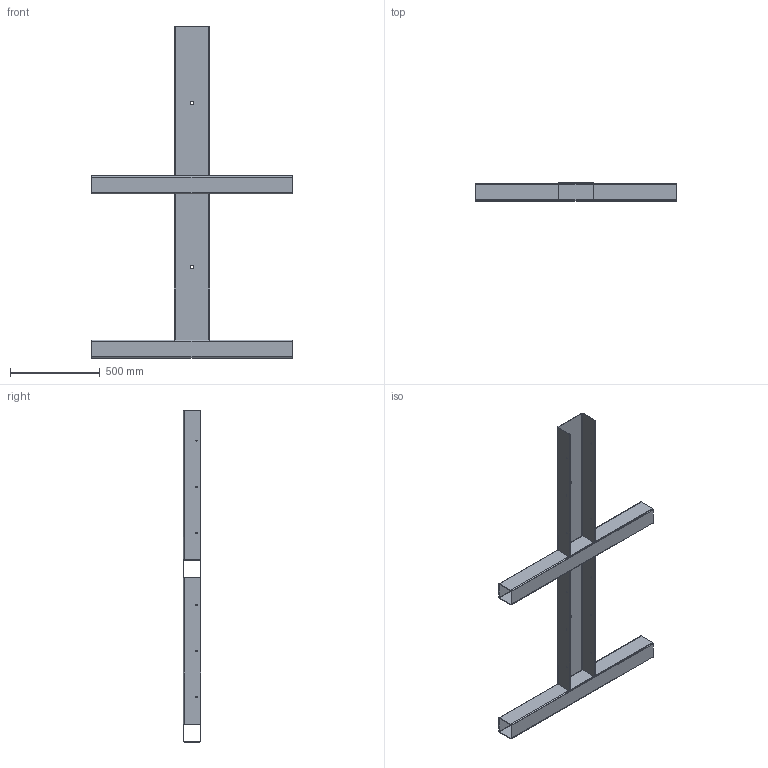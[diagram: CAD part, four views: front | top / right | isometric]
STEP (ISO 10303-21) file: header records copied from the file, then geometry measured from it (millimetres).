
FILE_DESCRIPTION(('HOOPS Exchange Step'),'2;1');
FILE_NAME('Y:\_FDM\CONCORSO_CAPPELLER\FILE DA INVIARE\VASCA_CONCORSO_CAPPELLER_CASTELLO SUPERIORE.stp','2026-08-24T15:55:16+02:00',('alessandro'),('Unknown organisation'),'HOOPS Exchange 2025.7','HOOPS Exchange','Unknown authorisation');
FILE_SCHEMA( ('AUTOMOTIVE_DESIGN { 1 0 10303 214 1 1 1 1 }') );
Length unit declared in the file: metre
Products named in the file (2): CASTELLO SUPERIORE; VASCA_CONCORSO_CAPPELLER_CASTELLO SUPERIORE
Assembly tree (1 placements, depth 2):
  VASCA_CONCORSO_CAPPELLER_CASTELLO SUPERIORE
    CASTELLO SUPERIORE
Bounding box: 1117 x 100 x 1851 mm (x, y, z)
Volume: 5921041.2 mm3; surface area: 2983221.5 mm2
Topology: 1 solids, 1 shells, 90 faces, 264 edges, 170 vertices
Faces by surface type: plane 52, cylinder 38
Full cylindrical faces by diameter (mm): 7 x12, 17.5 x2
Entity records: 3117 total; most frequent: DIRECTION 542, ORIENTED_EDGE 528, CARTESIAN_POINT 526, EDGE_CURVE 264, AXIS2_PLACEMENT_3D 186, VERTEX_POINT 170, VECTOR 170, LINE 170
